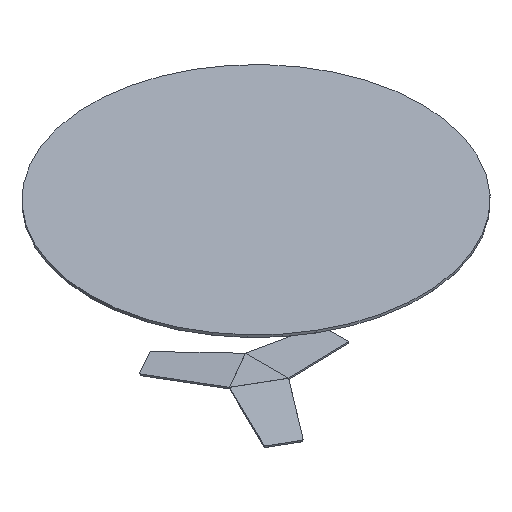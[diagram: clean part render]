
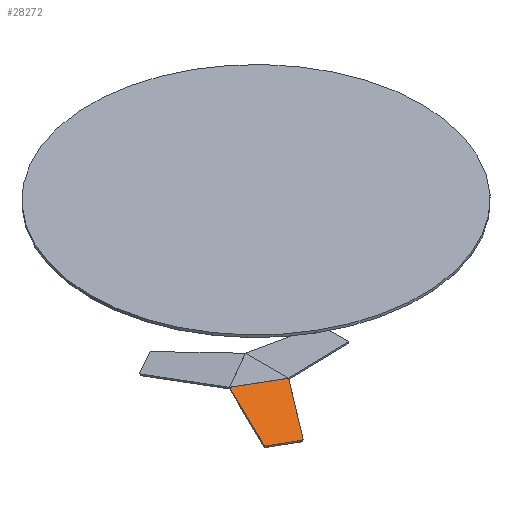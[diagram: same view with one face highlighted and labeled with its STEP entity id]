
A CAD part, isometric view. The second image highlights one B-rep face of the part: STEP entity #28272.
In plain terms, the highlighted planar face has unit normal (-0.044, -0.075, 0.996) as drawn and (-0.076, -0.044, 0.996) by its records, which use the part's own axes.
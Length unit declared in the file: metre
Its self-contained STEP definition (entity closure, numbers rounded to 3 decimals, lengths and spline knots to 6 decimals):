
#11=CIRCLE('',#30173,0.005);
#14=CIRCLE('',#30179,0.005);
#2809=FACE_OUTER_BOUND('',#4667,.T.);
#4667=EDGE_LOOP('',(#24571,#24572,#24573,#24574,#24575,#24576));
#8267=LINE('',#49162,#11882);
#8273=LINE('',#49179,#11888);
#8275=LINE('',#49182,#11890);
#8276=LINE('',#49184,#11891);
#11882=VECTOR('',#37461,0.01);
#11888=VECTOR('',#37477,0.01);
#11890=VECTOR('',#37481,0.01);
#11891=VECTOR('',#37484,0.01);
#13701=VERTEX_POINT('',#49149);
#13702=VERTEX_POINT('',#49150);
#13706=VERTEX_POINT('',#49160);
#13710=VERTEX_POINT('',#49172);
#13711=VERTEX_POINT('',#49176);
#13712=VERTEX_POINT('',#49178);
#18195=EDGE_CURVE('',#13701,#13702,#11,.T.);
#18201=EDGE_CURVE('',#13701,#13706,#8267,.T.);
#18206=EDGE_CURVE('',#13710,#13706,#14,.T.);
#18209=EDGE_CURVE('',#13712,#13711,#8273,.T.);
#18211=EDGE_CURVE('',#13710,#13712,#8275,.T.);
#18212=EDGE_CURVE('',#13711,#13702,#8276,.T.);
#24571=ORIENTED_EDGE('',*,*,#18195,.F.);
#24572=ORIENTED_EDGE('',*,*,#18201,.T.);
#24573=ORIENTED_EDGE('',*,*,#18206,.F.);
#24574=ORIENTED_EDGE('',*,*,#18211,.T.);
#24575=ORIENTED_EDGE('',*,*,#18209,.T.);
#24576=ORIENTED_EDGE('',*,*,#18212,.T.);
#26438=PLANE('',#30183);
#28272=ADVANCED_FACE('',(#2809),#26438,.T.);
#30173=AXIS2_PLACEMENT_3D('',#49151,#37451,#37452);
#30179=AXIS2_PLACEMENT_3D('',#49173,#37471,#37472);
#30183=AXIS2_PLACEMENT_3D('',#49185,#37485,#37486);
#37451=DIRECTION('center_axis',(0.076,0.044,-0.996));
#37452=DIRECTION('ref_axis',(-0.976,0.208,-0.065));
#37461=DIRECTION('',(0.499,-0.867,0.));
#37471=DIRECTION('center_axis',(0.076,0.044,-0.996));
#37472=DIRECTION('ref_axis',(-0.309,-0.949,-0.065));
#37477=DIRECTION('',(-0.499,0.867,0.));
#37481=DIRECTION('',(0.912,0.4,0.087));
#37484=DIRECTION('',(-0.804,-0.588,-0.087));
#37485=DIRECTION('center_axis',(-0.076,-0.044,
0.996));
#37486=DIRECTION('ref_axis',(0.997,-0.002,0.076));
#49149=CARTESIAN_POINT('',(-0.13166,-0.270939,-0.016948));
#49150=CARTESIAN_POINT('',(-0.130293,-0.264416,-0.01656));
#49151=CARTESIAN_POINT('Origin',(-0.127344,-0.268453,
-0.016512));
#49160=CARTESIAN_POINT('',(-0.083729,-0.354156,-0.016948));
#49162=CARTESIAN_POINT('',(-0.133898,-0.267054,-0.016948));
#49172=CARTESIAN_POINT('',(-0.0774,-0.356247,-0.01656));
#49173=CARTESIAN_POINT('Origin',(-0.079412,-0.351669,
-0.016512));
#49176=CARTESIAN_POINT('',(0.06967,-0.118067,0.00499));
#49178=CARTESIAN_POINT('',(0.149528,-0.256713,0.00499));
#49179=CARTESIAN_POINT('',(0.06967,-0.118067,0.00499));
#49182=CARTESIAN_POINT('',(-0.081491,-0.358041,-0.016948));
#49184=CARTESIAN_POINT('',(0.06967,-0.118067,0.00499));
#49185=CARTESIAN_POINT('Origin',(0.149498,-0.23831,0.005792));
